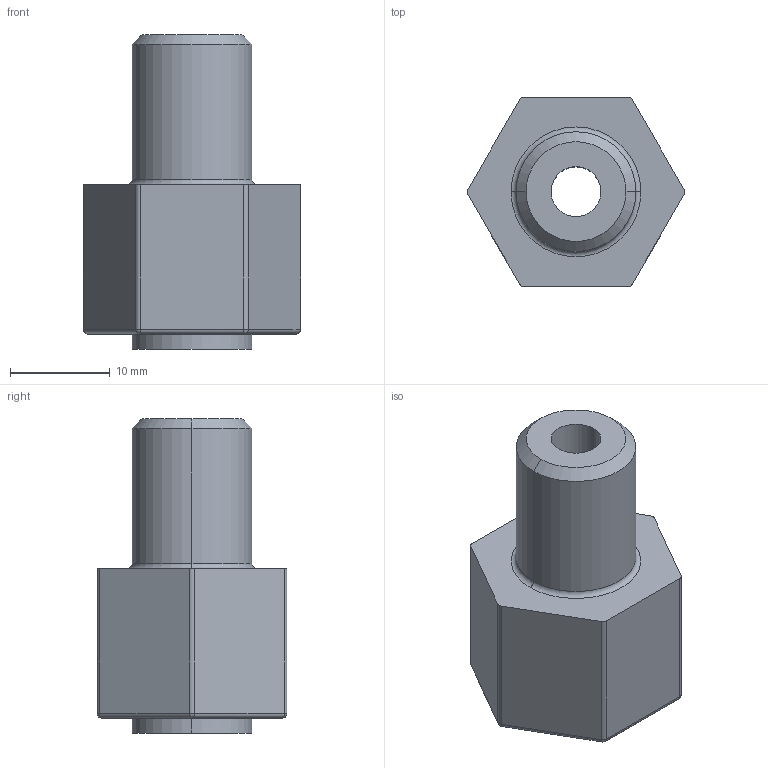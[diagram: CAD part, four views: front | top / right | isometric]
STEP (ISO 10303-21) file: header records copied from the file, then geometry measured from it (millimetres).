
FILE_DESCRIPTION (( 'STEP AP203' ), '1' );
FILE_NAME ('CVK15_V0.STEP', '2018-06-04T09:14:50', ( '' ), ( '' ), 'SwSTEP 2.0', 'SolidWorks 2017', '' );
FILE_SCHEMA (( 'CONFIG_CONTROL_DESIGN' ));
Length unit declared in the file: millimetre
Products named in the file (2): CVK15_V0
Bounding box: 21.78 x 19 x 31.5 mm (x, y, z)
Volume: 5633.8 mm3; surface area: 2713.1 mm2
Topology: 1 solids, 1 shells, 46 faces, 100 edges, 54 vertices
Faces by surface type: cylinder 21, plane 10, sphere 7, cone 6, torus 2
Entity records: 1370 total; most frequent: DIRECTION 243, CARTESIAN_POINT 198, ORIENTED_EDGE 192, AXIS2_PLACEMENT_3D 99, EDGE_CURVE 96, VERTEX_POINT 54, CIRCLE 51, EDGE_LOOP 50
